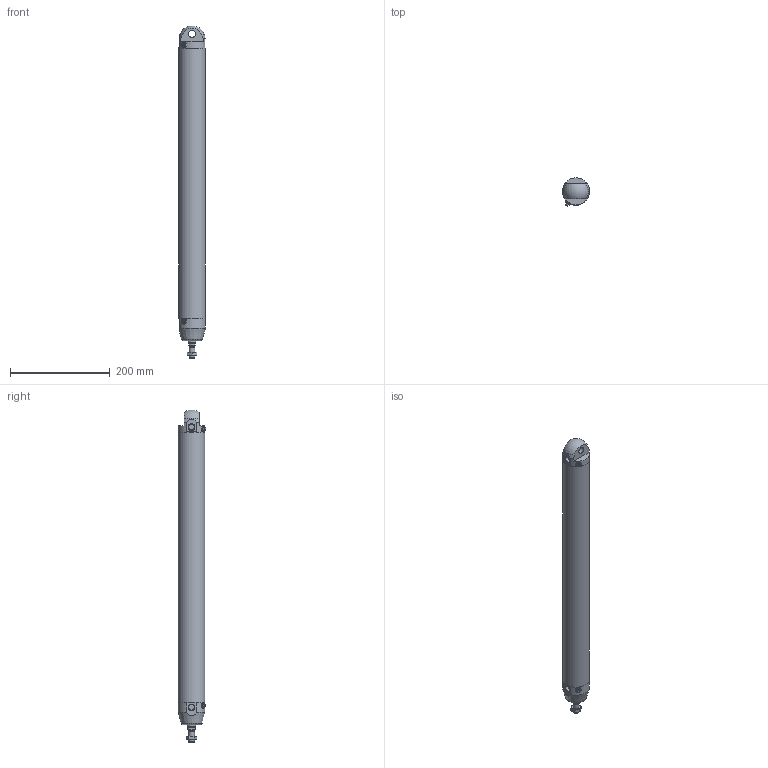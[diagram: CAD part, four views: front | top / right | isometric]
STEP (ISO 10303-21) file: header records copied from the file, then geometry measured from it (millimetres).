
FILE_DESCRIPTION(/* description */ (''),/* implementation_level */ '2;1');
FILE_NAME(/* name */ 'I:\Area Tecnica\Documenti\A-Manieri\_Inventor\12X\12X#A_###_####_#_#\12XBA_050_0500_#_#.stp',/* time_stamp */ '2015-04-24T09:19:41+02:00',/* author */ ('maniean1'),/* organization */ ('Pneumax S.p.A.'),/* preprocessor_version */ 'ST-DEVELOPER v15.2',/* originating_system */ 'Autodesk Inventor 2014',/* authorisation */ '');
FILE_SCHEMA (('AUTOMOTIVE_DESIGN { 1 0 10303 214 3 1 1 }'));
Length unit declared in the file: millimetre
Products named in the file (6): C1250_619-0500; 12X50_614; 12X50_607; S12X50_0500; 12X_50_11; 12XBA_050_0500_#_#
Bounding box: 54 x 55.88 x 666.83 mm (x, y, z)
Volume: 518752.1 mm3; surface area: 242494.2 mm2
Topology: 5 solids, 5 shells, 77 faces, 168 edges, 109 vertices
Faces by surface type: plane 43, cylinder 18, cone 12, torus 3, sphere 1
Full cylindrical faces by diameter (mm): 5 x2, 10.2 x1, 11 x2, 11.4 x2, 12 x2, 14 x2, 15.6 x1, 16 x1, 50 x2, 54 x3
Entity records: 2072 total; most frequent: CARTESIAN_POINT 428, DIRECTION 346, ORIENTED_EDGE 260, AXIS2_PLACEMENT_3D 152, EDGE_CURVE 130, EDGE_LOOP 122, VERTEX_POINT 100, ADVANCED_FACE 77
